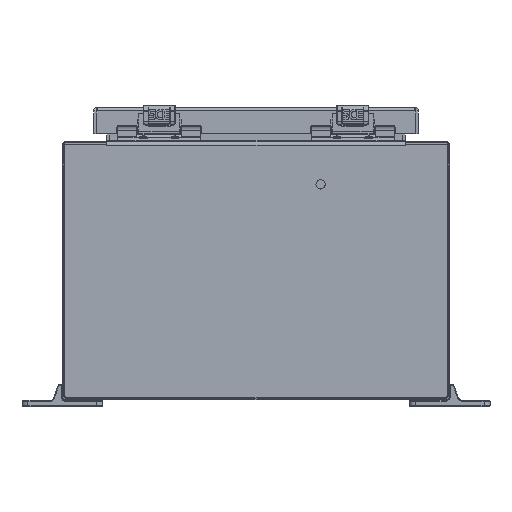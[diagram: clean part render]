
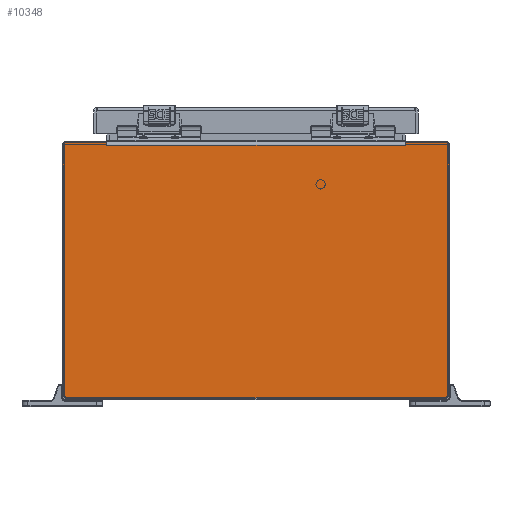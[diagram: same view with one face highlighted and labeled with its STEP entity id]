
A CAD part, front view. The second image highlights one B-rep face of the part: STEP entity #10348.
In plain terms, the highlighted planar face has unit normal (0, -1, 0).
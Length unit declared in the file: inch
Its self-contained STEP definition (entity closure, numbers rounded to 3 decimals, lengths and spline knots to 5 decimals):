
#9235=CARTESIAN_POINT('',(-5.887,0.,3.897));
#9236=DIRECTION('',(0.,-1.,0.));
#9237=DIRECTION('',(0.,0.,1.));
#9238=AXIS2_PLACEMENT_3D('',#9235,#9236,#9237);
#9243=CARTESIAN_POINT('',(5.887,0.,3.897));
#9244=DIRECTION('',(0.,-1.,0.));
#9245=DIRECTION('',(1.,0.,0.));
#9246=AXIS2_PLACEMENT_3D('',#9243,#9244,#9245);
#9251=DIRECTION('',(0.,0.,-1.));
#9252=VECTOR('',#9251,7.764);
#9253=CARTESIAN_POINT('',(5.967,0.,3.897));
#9254=LINE('',#9253,#9252);
#9258=CARTESIAN_POINT('',(5.887,0.,-3.867));
#9259=DIRECTION('',(0.,-1.,0.));
#9260=DIRECTION('',(0.,0.,-1.));
#9261=AXIS2_PLACEMENT_3D('',#9258,#9259,#9260);
#9266=CARTESIAN_POINT('',(-5.887,0.,-3.867));
#9267=DIRECTION('',(0.,-1.,0.));
#9268=DIRECTION('',(-1.,0.,0.));
#9269=AXIS2_PLACEMENT_3D('',#9266,#9267,#9268);
#9274=DIRECTION('',(0.,0.,1.));
#9275=VECTOR('',#9274,7.764);
#9276=CARTESIAN_POINT('',(-5.967,0.,-3.867));
#9277=LINE('',#9276,#9275);
#9302=DIRECTION('',(1.,0.,0.));
#9303=VECTOR('',#9302,11.774);
#9304=CARTESIAN_POINT('',(-5.887,0.,-3.947));
#9305=LINE('',#9304,#9303);
#9344=DIRECTION('',(-1.,0.,0.));
#9345=VECTOR('',#9344,1.262);
#9346=CARTESIAN_POINT('',(5.887,0.,3.977));
#9347=LINE('',#9346,#9345);
#9372=DIRECTION('',(0.,0.,-1.));
#9373=VECTOR('',#9372,0.094);
#9374=CARTESIAN_POINT('',(4.625,0.,3.977));
#9375=LINE('',#9374,#9373);
#9643=DIRECTION('',(1.,0.,0.));
#9644=VECTOR('',#9643,9.25);
#9645=CARTESIAN_POINT('',(-4.625,0.,3.883));
#9646=LINE('',#9645,#9644);
#9687=DIRECTION('',(0.,0.,1.));
#9688=VECTOR('',#9687,0.094);
#9689=CARTESIAN_POINT('',(-4.625,0.,3.883));
#9690=LINE('',#9689,#9688);
#9722=DIRECTION('',(-1.,0.,0.));
#9723=VECTOR('',#9722,1.262);
#9724=CARTESIAN_POINT('',(-4.625,0.,3.977));
#9725=LINE('',#9724,#9723);
#10169=CARTESIAN_POINT('',(-4.625,0.,3.883));
#10170=CARTESIAN_POINT('',(4.625,0.,3.883));
#10171=VERTEX_POINT('',#10169);
#10172=VERTEX_POINT('',#10170);
#10277=CARTESIAN_POINT('',(-4.625,0.,3.977));
#10279=VERTEX_POINT('',#10277);
#10281=CARTESIAN_POINT('',(4.625,0.,3.977));
#10283=VERTEX_POINT('',#10281);
#10285=CARTESIAN_POINT('',(-5.887,0.,3.977));
#10286=CARTESIAN_POINT('',(-5.967,0.,3.897));
#10287=VERTEX_POINT('',#10285);
#10288=VERTEX_POINT('',#10286);
#10293=CARTESIAN_POINT('',(-5.967,0.,-3.867));
#10294=CARTESIAN_POINT('',(-5.887,0.,-3.947));
#10295=VERTEX_POINT('',#10293);
#10296=VERTEX_POINT('',#10294);
#10301=CARTESIAN_POINT('',(5.967,0.,3.897));
#10302=CARTESIAN_POINT('',(5.887,0.,3.977));
#10303=VERTEX_POINT('',#10301);
#10304=VERTEX_POINT('',#10302);
#10309=CARTESIAN_POINT('',(5.887,0.,-3.947));
#10310=CARTESIAN_POINT('',(5.967,0.,-3.867));
#10311=VERTEX_POINT('',#10309);
#10312=VERTEX_POINT('',#10310);
#10317=CARTESIAN_POINT('',(0.,0.,0.));
#10318=DIRECTION('',(0.,-1.,0.));
#10319=DIRECTION('',(-1.,0.,0.));
#10320=AXIS2_PLACEMENT_3D('',#10317,#10318,#10319);
#10321=PLANE('',#10320);
#10323=ORIENTED_EDGE('',*,*,#10322,.F.);
#10325=ORIENTED_EDGE('',*,*,#10324,.F.);
#10327=ORIENTED_EDGE('',*,*,#10326,.F.);
#10329=ORIENTED_EDGE('',*,*,#10328,.T.);
#10331=ORIENTED_EDGE('',*,*,#10330,.F.);
#10333=ORIENTED_EDGE('',*,*,#10332,.F.);
#10335=ORIENTED_EDGE('',*,*,#10334,.F.);
#10337=ORIENTED_EDGE('',*,*,#10336,.T.);
#10339=ORIENTED_EDGE('',*,*,#10338,.F.);
#10341=ORIENTED_EDGE('',*,*,#10340,.F.);
#10343=ORIENTED_EDGE('',*,*,#10342,.F.);
#10345=ORIENTED_EDGE('',*,*,#10344,.T.);
#10346=EDGE_LOOP('',(#10323,#10325,#10327,#10329,#10331,#10333,#10335,#10337,
#10339,#10341,#10343,#10345));
#10347=FACE_OUTER_BOUND('',#10346,.F.);
#9239=CIRCLE('',#9238,0.08);
#9247=CIRCLE('',#9246,0.08);
#9262=CIRCLE('',#9261,0.08);
#9270=CIRCLE('',#9269,0.08);
#10322=EDGE_CURVE('',#10287,#10288,#9239,.T.);
#10324=EDGE_CURVE('',#10279,#10287,#9725,.T.);
#10326=EDGE_CURVE('',#10171,#10279,#9690,.T.);
#10328=EDGE_CURVE('',#10171,#10172,#9646,.T.);
#10330=EDGE_CURVE('',#10283,#10172,#9375,.T.);
#10332=EDGE_CURVE('',#10304,#10283,#9347,.T.);
#10334=EDGE_CURVE('',#10303,#10304,#9247,.T.);
#10336=EDGE_CURVE('',#10303,#10312,#9254,.T.);
#10338=EDGE_CURVE('',#10311,#10312,#9262,.T.);
#10340=EDGE_CURVE('',#10296,#10311,#9305,.T.);
#10342=EDGE_CURVE('',#10295,#10296,#9270,.T.);
#10344=EDGE_CURVE('',#10295,#10288,#9277,.T.);
#10348=ADVANCED_FACE('',(#10347),#10321,.T.);
